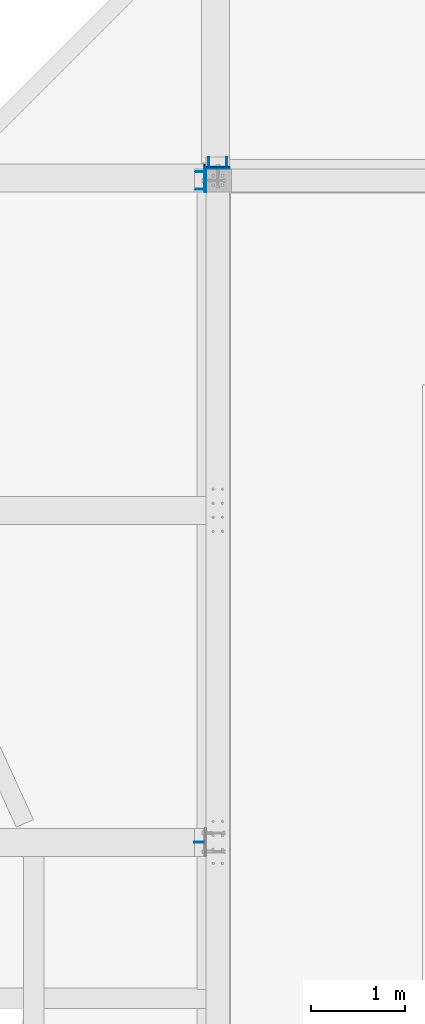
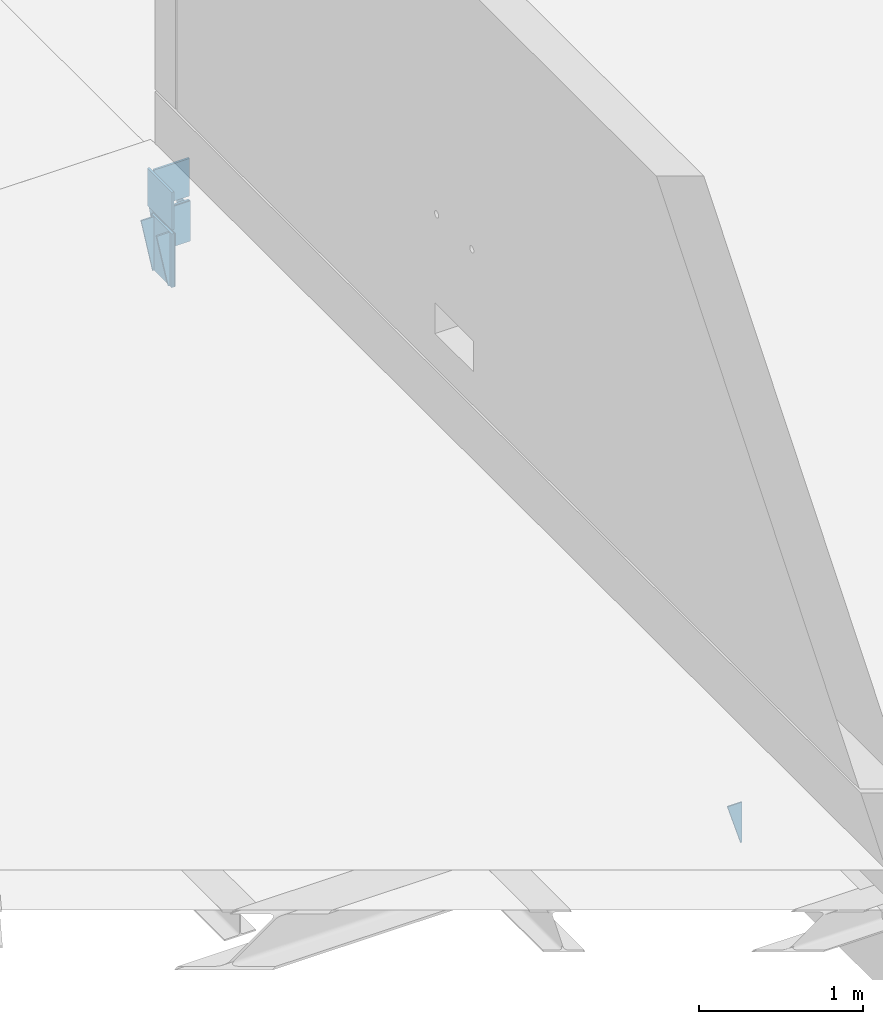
# One storey, part 6 of 16: 13 columns.
"""IFC2X3 building model written with IfcOpenShell, lengths in millimetres."""

from ifc_helpers import new_model, entity, si_unit, converted_unit, derived_unit, direction, frame, frame_2d, origin, origin_2d_with_axis, place, context, subcontext, project, spatial, rectangle, extrude, clip, halfspace, source, transform, mapped, material, type_object, type_shapes, element, save


model = new_model("IFC2X3")

# Units and contexts
model_context = context("Model", 3, precision=0.01, world=origin(), true_north=direction((6.12303176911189e-17, 1.0)))
body_context = subcontext(model_context, "Body", "Model", "MODEL_VIEW")
ifc_project = project(units=[si_unit("LENGTHUNIT", "METRE", prefix="MILLI"), si_unit("AREAUNIT", "SQUARE_METRE"), si_unit("VOLUMEUNIT", "CUBIC_METRE"), converted_unit("PLANEANGLEUNIT", "DEGREE", entity("IfcRatioMeasure", 0.0174532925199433), si_unit("PLANEANGLEUNIT", "RADIAN"), dimensions=[0, 0, 0, 0, 0, 0, 0]), si_unit("MASSUNIT", "GRAM", prefix="KILO"), derived_unit("MASSDENSITYUNIT", [(si_unit("MASSUNIT", "GRAM", prefix="KILO"), 1), (si_unit("LENGTHUNIT", "METRE"), -3)]), si_unit("TIMEUNIT", "SECOND"), si_unit("FREQUENCYUNIT", "HERTZ"), si_unit("THERMODYNAMICTEMPERATUREUNIT", "DEGREE_CELSIUS"), derived_unit("THERMALTRANSMITTANCEUNIT", [(si_unit("MASSUNIT", "GRAM", prefix="KILO"), 1), (si_unit("THERMODYNAMICTEMPERATUREUNIT", "KELVIN"), -1), (si_unit("TIMEUNIT", "SECOND"), -3)]), derived_unit("VOLUMETRICFLOWRATEUNIT", [(si_unit("LENGTHUNIT", "METRE"), 3), (si_unit("TIMEUNIT", "SECOND"), -1)]), si_unit("ELECTRICCURRENTUNIT", "AMPERE"), si_unit("ELECTRICVOLTAGEUNIT", "VOLT"), si_unit("POWERUNIT", "WATT"), si_unit("FORCEUNIT", "NEWTON", prefix="KILO"), si_unit("ILLUMINANCEUNIT", "LUX"), si_unit("LUMINOUSFLUXUNIT", "LUMEN"), si_unit("LUMINOUSINTENSITYUNIT", "CANDELA"), derived_unit("USERDEFINED", [(si_unit("MASSUNIT", "GRAM", prefix="KILO"), -1), (si_unit("LENGTHUNIT", "METRE"), -2), (si_unit("TIMEUNIT", "SECOND"), 3), (si_unit("LUMINOUSFLUXUNIT", "LUMEN"), 1)]), derived_unit("LINEARVELOCITYUNIT", [(si_unit("LENGTHUNIT", "METRE"), 1), (si_unit("TIMEUNIT", "SECOND"), -1)]), si_unit("PRESSUREUNIT", "PASCAL"), derived_unit("USERDEFINED", [(si_unit("LENGTHUNIT", "METRE"), -2), (si_unit("MASSUNIT", "GRAM", prefix="KILO"), 1), (si_unit("TIMEUNIT", "SECOND"), -2)])], contexts=[model_context])

# Site, building, storey
site_placement = place(None, origin())
site = spatial("IfcSite", under=ifc_project, at=site_placement, Name="Default", CompositionType="ELEMENT")
building_placement = place(site_placement, origin())
building = spatial("IfcBuilding", under=site, at=building_placement, Name="niet gebruiken", CompositionType="ELEMENT")
storey_placement = place(building_placement, frame((0.0, 0.0, 183150.0)))
storey = spatial("IfcBuildingStorey", under=building, at=storey_placement, Name="58 achtenvijftigste verdieping", CompositionType="ELEMENT", Elevation=183150.0)

# Columns
ifc_material = material(Name="NLRS_h2_staal")
column_type_1 = type_object("IfcColumnType", Name="kolom stripstaal RECT_250x15", PredefinedType="COLUMN", material=ifc_material)
shared_shape_1 = source(origin(), body_context, "Body", "SweptSolid", [
    extrude(rectangle(XDim=249.999999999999, YDim=14.9999999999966, at=frame_2d((-2.16715534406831e-12, 0.0), x_axis=(1.0, 0.0))), frame((135732.472129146, 24575.0, 181865.0), z_axis=(0.0, 0.0, 1.0), x_axis=(0.0, -1.0, 0.0)), (0.0, 0.0, 1.0), 400.000000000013),
])
type_shapes(column_type_1, [shared_shape_1])
column_1_placement = place(storey_placement, frame((0.0, 0.0, -183150.0)))
element("IfcColumn", 1, at=column_1_placement, inside=storey, type_object=column_type_1, material=ifc_material, Name="NLRS_28.11_SCO_TLB_stalen kolom stripstaal_gen:kolom stripstaal RECT_250x15", ObjectType="kolom stripstaal RECT_250x15", context=body_context, shape_type="MappedRepresentation", body=[
    mapped(shared_shape_1, transform((0.0, 0.0, 0.0), scale=1.0)),
])
column_type_2 = type_object("IfcColumnType", Name="kolom stripstaal RECT_250x15", PredefinedType="COLUMN", material=ifc_material)
shared_shape_2 = source(origin(), body_context, "Body", "SweptSolid", [
    extrude(rectangle(XDim=15.0000000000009, YDim=249.999999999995, at=frame_2d((0.0, -1.73301373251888e-11), x_axis=(1.0, 0.0))), frame((135875.0, 24717.5, 181965.0), z_axis=(0.0, 0.0, 1.0), x_axis=(0.0, -1.0, 0.0)), (0.0, 0.0, 1.0), 300.000000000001),
])
type_shapes(column_type_2, [shared_shape_2])
column_2_placement = place(storey_placement, frame((0.0, 0.0, -183150.0)))
element("IfcColumn", 2, at=column_2_placement, inside=storey, type_object=column_type_2, material=ifc_material, Name="NLRS_28.11_SCO_TLB_stalen kolom stripstaal_gen:kolom stripstaal RECT_250x15", ObjectType="kolom stripstaal RECT_250x15", context=body_context, shape_type="MappedRepresentation", body=[
    mapped(shared_shape_2, transform((0.0, 0.0, 0.0), scale=1.0)),
])
column_type_3 = type_object("IfcColumnType", Name="kolom stripstaal RECT_250x5", PredefinedType="COLUMN", material=ifc_material)
shared_shape_3 = source(origin(), body_context, "Body", "SweptSolid", [
    extrude(rectangle(XDim=249.999999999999, YDim=4.99999999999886, at=frame_2d((-2.16715534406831e-12, 0.0), x_axis=(1.0, 0.0))), frame((135747.5, 24575.0, 181865.0), z_axis=(0.0, 0.0, 1.0), x_axis=(0.0, -1.0, 0.0)), (0.0, 0.0, 1.0), 400.000000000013),
])
type_shapes(column_type_3, [shared_shape_3])
column_3_placement = place(storey_placement, frame((0.0, 0.0, -183150.0)))
element("IfcColumn", 3, at=column_3_placement, inside=storey, type_object=column_type_3, material=ifc_material, Name="NLRS_28.11_SCO_TLB_stalen kolom stripstaal_gen:kolom stripstaal RECT_250x5", ObjectType="kolom stripstaal RECT_250x5", context=body_context, shape_type="MappedRepresentation", body=[
    mapped(shared_shape_3, transform((0.0, 0.0, 0.0), scale=1.0)),
])
column_type_4 = type_object("IfcColumnType", Name="kolom stripstaal RECT_250x5", PredefinedType="COLUMN", material=ifc_material)
shared_shape_4 = source(origin(), body_context, "Body", "SweptSolid", [
    extrude(rectangle(XDim=249.999999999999, YDim=4.99999999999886, at=frame_2d((-2.16715534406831e-12, 0.0), x_axis=(1.0, 0.0))), frame((135742.472129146, 24575.0, 181865.0), z_axis=(0.0, 0.0, 1.0), x_axis=(0.0, -1.0, 0.0)), (0.0, 0.0, 1.0), 400.000000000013),
])
type_shapes(column_type_4, [shared_shape_4])
column_4_placement = place(storey_placement, frame((0.0, 0.0, -183150.0)))
element("IfcColumn", 4, at=column_4_placement, inside=storey, type_object=column_type_4, material=ifc_material, Name="NLRS_28.11_SCO_TLB_stalen kolom stripstaal_gen:kolom stripstaal RECT_250x5", ObjectType="kolom stripstaal RECT_250x5", context=body_context, shape_type="MappedRepresentation", body=[
    mapped(shared_shape_4, transform((0.0, 0.0, 0.0), scale=1.0)),
])
column_type_5 = type_object("IfcColumnType", Name="kolom stripstaal RECT_250x5", PredefinedType="COLUMN", material=ifc_material)
shared_shape_5 = source(origin(), body_context, "Body", "SweptSolid", [
    extrude(rectangle(XDim=4.99999999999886, YDim=249.999999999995, at=origin_2d_with_axis()), frame((135875.0, 24707.5, 181965.0), z_axis=(0.0, 0.0, 1.0), x_axis=(0.0, -1.0, 0.0)), (0.0, 0.0, 1.0), 300.000000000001),
])
type_shapes(column_type_5, [shared_shape_5])
column_5_placement = place(storey_placement, frame((0.0, 0.0, -183150.0)))
element("IfcColumn", 5, at=column_5_placement, inside=storey, type_object=column_type_5, material=ifc_material, Name="NLRS_28.11_SCO_TLB_stalen kolom stripstaal_gen:kolom stripstaal RECT_250x5", ObjectType="kolom stripstaal RECT_250x5", context=body_context, shape_type="MappedRepresentation", body=[
    mapped(shared_shape_5, transform((0.0, 0.0, 0.0), scale=1.0)),
])
column_type_6 = type_object("IfcColumnType", Name="kolom stripstaal RECT_250x5", PredefinedType="COLUMN", material=ifc_material)
shared_shape_6 = source(origin(), body_context, "Body", "SweptSolid", [
    extrude(rectangle(XDim=4.99999999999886, YDim=249.999999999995, at=origin_2d_with_axis()), frame((135875.0, 24702.5, 181965.0), z_axis=(0.0, 0.0, 1.0), x_axis=(0.0, -1.0, 0.0)), (0.0, 0.0, 1.0), 300.000000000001),
])
type_shapes(column_type_6, [shared_shape_6])
column_6_placement = place(storey_placement, frame((0.0, 0.0, -183150.0)))
element("IfcColumn", 6, at=column_6_placement, inside=storey, type_object=column_type_6, material=ifc_material, Name="NLRS_28.11_SCO_TLB_stalen kolom stripstaal_gen:kolom stripstaal RECT_250x5", ObjectType="kolom stripstaal RECT_250x5", context=body_context, shape_type="MappedRepresentation", body=[
    mapped(shared_shape_6, transform((0.0, 0.0, 0.0), scale=1.0)),
])
column_type_7 = type_object("IfcColumnType", Name="kolom stripstaal RECT_300x15", PredefinedType="COLUMN", material=ifc_material)
shared_shape_7 = source(origin(), body_context, "Body", "SweptSolid", [
    extrude(rectangle(XDim=300.000000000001, YDim=14.9999999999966, at=frame_2d((2.1600499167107e-12, 0.0), x_axis=(1.0, 0.0))), frame((135732.472129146, 24600.0, 182295.0), z_axis=(0.0, 0.0, 1.0), x_axis=(0.0, -1.0, 0.0)), (0.0, 0.0, 1.0), 280.000000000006),
])
type_shapes(column_type_7, [shared_shape_7])
column_7_placement = place(storey_placement, frame((0.0, 0.0, -183150.0)))
element("IfcColumn", 7, at=column_7_placement, inside=storey, type_object=column_type_7, material=ifc_material, Name="NLRS_28.11_SCO_TLB_stalen kolom stripstaal_gen:kolom stripstaal RECT_300x15", ObjectType="kolom stripstaal RECT_300x15", context=body_context, shape_type="MappedRepresentation", body=[
    mapped(shared_shape_7, transform((0.0, 0.0, 0.0), scale=1.0)),
])
column_type_8 = type_object("IfcColumnType", Name="kolom stripstaal RECT_250x15", PredefinedType="COLUMN", material=ifc_material)
shared_shape_8 = source(origin(), body_context, "Body", "SweptSolid", [
    extrude(rectangle(XDim=15.0000000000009, YDim=249.999999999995, at=frame_2d((0.0, -1.73301373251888e-11), x_axis=(1.0, 0.0))), frame((135875.0, 24717.5, 182295.0), z_axis=(0.0, 0.0, 1.0), x_axis=(0.0, -1.0, 0.0)), (0.0, 0.0, 1.0), 280.000000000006),
])
type_shapes(column_type_8, [shared_shape_8])
column_8_placement = place(storey_placement, frame((0.0, 0.0, -183150.0)))
element("IfcColumn", 8, at=column_8_placement, inside=storey, type_object=column_type_8, material=ifc_material, Name="NLRS_28.11_SCO_TLB_stalen kolom stripstaal_gen:kolom stripstaal RECT_250x15", ObjectType="kolom stripstaal RECT_250x15", context=body_context, shape_type="MappedRepresentation", body=[
    mapped(shared_shape_8, transform((0.0, 0.0, 0.0), scale=1.0)),
])
column_type_9 = type_object("IfcColumnType", Name="kolom stripstaal RECT_100x10", PredefinedType="COLUMN", material=ifc_material)
shared_shape_9 = source(origin(), body_context, "Body", "Clipping", [
    clip(extrude(rectangle(XDim=9.99999999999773, YDim=99.9999999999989, at=frame_2d((0.0, -2.16715534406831e-12), x_axis=(1.0, 0.0))), frame((135970.0, 24775.0, 181965.0)), (0.0, 0.0, 1.0), 300.000000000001), halfspace(frame((136270.0, 24825.0, 182255.0), z_axis=(0.0, 0.955064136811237, -0.296399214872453), x_axis=(-1.0, 0.0, 0.0)), False)),
])
type_shapes(column_type_9, [shared_shape_9])
column_9_placement = place(storey_placement, frame((0.0, 0.0, -183150.0)))
element("IfcColumn", 9, at=column_9_placement, inside=storey, type_object=column_type_9, material=ifc_material, Name="NLRS_28.11_SCO_TLB_stalen kolom stripstaal_gen:kolom stripstaal RECT_100x10", ObjectType="kolom stripstaal RECT_100x10", context=body_context, shape_type="MappedRepresentation", body=[
    mapped(shared_shape_9, transform((0.0, 0.0, 0.0), scale=1.0)),
])
column_type_10 = type_object("IfcColumnType", Name="kolom stripstaal RECT_100x10", PredefinedType="COLUMN", material=ifc_material)
shared_shape_10 = source(origin(), body_context, "Body", "Clipping", [
    clip(extrude(rectangle(XDim=10.0000000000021, YDim=91.8181818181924, at=frame_2d((0.0, -8.66151594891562e-12), x_axis=(1.0, 0.0))), frame((135679.063038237, 24670.0, 181865.0), z_axis=(0.0, 0.0, 1.0), x_axis=(0.0, -1.0, 0.0)), (0.0, 0.0, 1.0), 400.000000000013), halfspace(frame((135624.972129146, 25070.0, 182305.0), z_axis=(-0.979714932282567, 0.0, -0.200396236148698), x_axis=(0.0, -1.0, 0.0)), False)),
])
type_shapes(column_type_10, [shared_shape_10])
column_10_placement = place(storey_placement, frame((0.0, 0.0, -183150.0)))
element("IfcColumn", 10, at=column_10_placement, inside=storey, type_object=column_type_10, material=ifc_material, Name="NLRS_28.11_SCO_TLB_stalen kolom stripstaal_gen:kolom stripstaal RECT_100x10", ObjectType="kolom stripstaal RECT_100x10", context=body_context, shape_type="MappedRepresentation", body=[
    mapped(shared_shape_10, transform((0.0, 0.0, 0.0), scale=1.0)),
])
column_type_11 = type_object("IfcColumnType", Name="kolom stripstaal RECT_100x10", PredefinedType="COLUMN", material=ifc_material)
shared_shape_11 = source(origin(), body_context, "Body", "Clipping", [
    clip(extrude(rectangle(XDim=9.99999999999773, YDim=99.9999999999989, at=origin_2d_with_axis()), frame((135780.0, 24775.0, 181965.0)), (0.0, 0.0, 1.0), 300.000000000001), halfspace(frame((135480.0, 24735.0, 181965.0), z_axis=(0.0, 0.955064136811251, -0.296399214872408), x_axis=(1.0, 0.0, 0.0)), False)),
])
type_shapes(column_type_11, [shared_shape_11])
column_11_placement = place(storey_placement, frame((0.0, 0.0, -183150.0)))
element("IfcColumn", 11, at=column_11_placement, inside=storey, type_object=column_type_11, material=ifc_material, Name="NLRS_28.11_SCO_TLB_stalen kolom stripstaal_gen:kolom stripstaal RECT_100x10", ObjectType="kolom stripstaal RECT_100x10", context=body_context, shape_type="MappedRepresentation", body=[
    mapped(shared_shape_11, transform((0.0, 0.0, 0.0), scale=1.0)),
])
column_type_12 = type_object("IfcColumnType", Name="kolom stripstaal RECT_100x10", PredefinedType="COLUMN", material=ifc_material)
shared_shape_12 = source(origin(), body_context, "Body", "Clipping", [
    clip(extrude(rectangle(XDim=10.0000000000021, YDim=91.8181818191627, at=frame_2d((0.0, -8.66151594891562e-12), x_axis=(1.0, 0.0))), frame((135679.063038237, 24480.0, 181865.0), z_axis=(0.0, 0.0, 1.0), x_axis=(0.0, -1.0, 0.0)), (0.0, 0.0, 1.0), 400.000000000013), halfspace(frame((135624.972129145, 24880.0, 182305.0), z_axis=(-0.979714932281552, 0.0, -0.20039623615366), x_axis=(0.0, -1.0, 0.0)), False)),
])
type_shapes(column_type_12, [shared_shape_12])
column_12_placement = place(storey_placement, frame((0.0, 0.0, -183150.0)))
element("IfcColumn", 12, at=column_12_placement, inside=storey, type_object=column_type_12, material=ifc_material, Name="NLRS_28.11_SCO_TLB_stalen kolom stripstaal_gen:kolom stripstaal RECT_100x10", ObjectType="kolom stripstaal RECT_100x10", context=body_context, shape_type="MappedRepresentation", body=[
    mapped(shared_shape_12, transform((0.0, 0.0, 0.0), scale=1.0)),
])
column_type_13 = type_object("IfcColumnType", Name="kolom stripstaal RECT_100x10", PredefinedType="COLUMN", material=ifc_material)
shared_shape_13 = source(origin(), body_context, "Body", "Clipping", [
    clip(extrude(rectangle(XDim=9.99999999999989, YDim=100.000000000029, at=frame_2d((-1.0831335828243e-12, -1.732658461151e-11), x_axis=(1.0, 0.0))), frame((135674.972129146, 17500.0, 181955.0), z_axis=(0.0, 0.0, 1.0), x_axis=(0.0, -1.0, 0.0)), (0.0, 0.0, 1.0), 300.000000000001), halfspace(frame((135624.972129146, 17800.0, 182245.0), z_axis=(-0.955064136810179, 0.0, -0.296399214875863), x_axis=(0.0, -1.0, 0.0)), False)),
])
type_shapes(column_type_13, [shared_shape_13])
column_13_placement = place(storey_placement, frame((0.0, 0.0, -183150.0)))
element("IfcColumn", 13, at=column_13_placement, inside=storey, type_object=column_type_13, material=ifc_material, Name="NLRS_28.11_SCO_TLB_stalen kolom stripstaal_gen:kolom stripstaal RECT_100x10", ObjectType="kolom stripstaal RECT_100x10", context=body_context, shape_type="MappedRepresentation", body=[
    mapped(shared_shape_13, transform((0.0, 0.0, 0.0), scale=1.0)),
])

save(model, "model.ifc")
